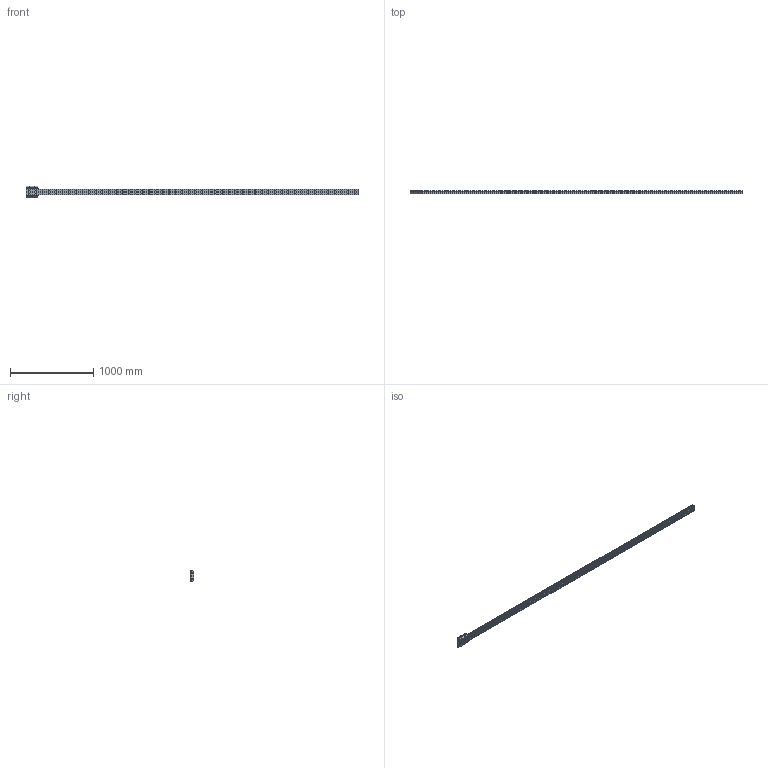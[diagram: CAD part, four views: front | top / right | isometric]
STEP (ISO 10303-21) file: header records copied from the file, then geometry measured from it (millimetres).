
FILE_DESCRIPTION( ( 'STEP AP203' ), '1' );
FILE_NAME( 'p:/temp/worker_20/temp/exporttempdir_1260_1719_wOjDe/format_0/FDG35 84368LN_4000-0-0.stp', '2021-04-27T06:39:54', ( 'License CC BY-ND 4.0' ), ( 'CADENAS' ), ' ', 'PARTsolutions', ' ' );
FILE_SCHEMA( ( 'CONFIG_CONTROL_DESIGN' ) );
Length unit declared in the file: millimetre
Products named in the file (5): FDG35 84368LN_4000-0-0; _FD_35R 4000-0-0; _FD_35R Rollenhalter_1; _FD_35R 4000-0-0_2; _FD_35R Rollenhalter_2
Assembly tree (4 placements, depth 2):
  FDG35 84368LN_4000-0-0
    _FD_35R 4000-0-0
    _FD_35R Rollenhalter_1
    _FD_35R 4000-0-0_2
    _FD_35R Rollenhalter_2
Bounding box: 4000 x 44.5 x 137.8 mm (x, y, z)
Volume: 9129227.2 mm3; surface area: 1363742.9 mm2
Topology: 4 solids, 8 shells, 794 faces, 2106 edges, 1430 vertices
Faces by surface type: plane 473, cylinder 308, cone 12, torus 1
Full cylindrical faces by diameter (mm): 4.2 x1, 4.917 x8, 8.376 x4, 9 x100, 14 x1, 15 x100
Entity records: 23274 total; most frequent: DIRECTION 3978, CARTESIAN_POINT 3949, ORIENTED_EDGE 3522, EDGE_CURVE 1761, AXIS2_PLACEMENT_3D 1429, EDGE_LOOP 1329, VERTEX_POINT 1318, LINE 1120
